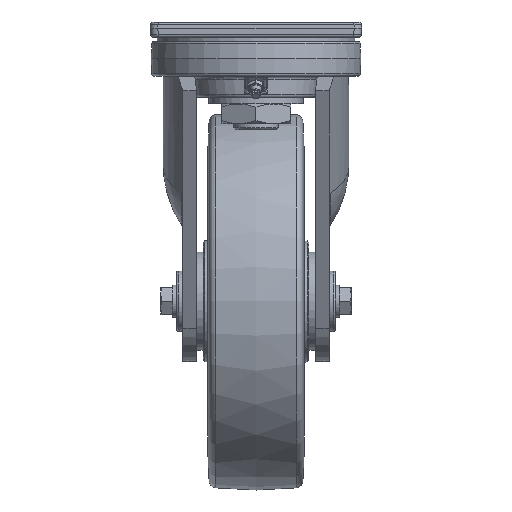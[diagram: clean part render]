
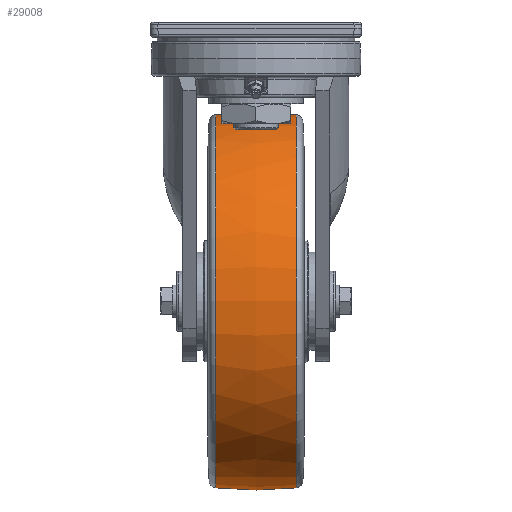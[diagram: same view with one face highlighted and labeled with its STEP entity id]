
A CAD part, left-side view. The second image highlights one B-rep face of the part: STEP entity #29008.
In plain terms, the highlighted free-form (B-spline) face has degree [2, 2] with [3, 9] control points.
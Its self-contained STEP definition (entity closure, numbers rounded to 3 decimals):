
#19=(
BOUNDED_SURFACE()
B_SPLINE_SURFACE(2,2,((#56457,#56458,#56459,#56460,#56461,#56462,#56463,
#56464,#56465),(#56466,#56467,#56468,#56469,#56470,#56471,#56472,#56473,
#56474),(#56475,#56476,#56477,#56478,#56479,#56480,#56481,#56482,#56483)),
 .UNSPECIFIED.,.F.,.T.,.F.)
B_SPLINE_SURFACE_WITH_KNOTS((3,3),(3,2,2,2,3),(-0.107,0.107),
(-3.142,-1.571,0.,1.571,3.142),
 .UNSPECIFIED.)
GEOMETRIC_REPRESENTATION_ITEM()
RATIONAL_B_SPLINE_SURFACE(((1.,0.707,1.,0.707,1.,
0.707,1.,0.707,1.),(0.994,0.703,
0.994,0.703,0.994,0.703,
0.994,0.703,0.994),(1.,0.707,
1.,0.707,1.,0.707,1.,0.707,1.)))
REPRESENTATION_ITEM('')
SURFACE()
);
#3186=CIRCLE('',#31191,123.579);
#3187=CIRCLE('',#31192,123.579);
#3188=CIRCLE('',#31193,250.);
#3189=CIRCLE('',#31194,123.579);
#3190=CIRCLE('',#31195,123.579);
#4847=FACE_OUTER_BOUND('',#6617,.T.);
#6617=EDGE_LOOP('',(#23900,#23901,#23902,#23903,#23904,#23905));
#12857=VERTEX_POINT('',#56452);
#12858=VERTEX_POINT('',#56454);
#12859=VERTEX_POINT('',#56484);
#12860=VERTEX_POINT('',#56486);
#16720=EDGE_CURVE('',#12857,#12858,#3186,.T.);
#16721=EDGE_CURVE('',#12858,#12857,#3187,.T.);
#16722=EDGE_CURVE('',#12857,#12859,#3188,.T.);
#16723=EDGE_CURVE('',#12859,#12860,#3189,.T.);
#16724=EDGE_CURVE('',#12860,#12859,#3190,.T.);
#23900=ORIENTED_EDGE('',*,*,#16721,.F.);
#23901=ORIENTED_EDGE('',*,*,#16720,.F.);
#23902=ORIENTED_EDGE('',*,*,#16722,.T.);
#23903=ORIENTED_EDGE('',*,*,#16723,.T.);
#23904=ORIENTED_EDGE('',*,*,#16724,.T.);
#23905=ORIENTED_EDGE('',*,*,#16722,.F.);
#29008=ADVANCED_FACE('',(#4847),#19,.F.);
#31191=AXIS2_PLACEMENT_3D('',#56455,#35909,#35910);
#31192=AXIS2_PLACEMENT_3D('',#56456,#35911,#35912);
#31193=AXIS2_PLACEMENT_3D('',#56485,#35913,#35914);
#31194=AXIS2_PLACEMENT_3D('',#56487,#35915,#35916);
#31195=AXIS2_PLACEMENT_3D('',#56488,#35917,#35918);
#35909=DIRECTION('center_axis',(0.,1.,0.));
#35910=DIRECTION('ref_axis',(-1.,0.,0.));
#35911=DIRECTION('center_axis',(0.,1.,0.));
#35912=DIRECTION('ref_axis',(-1.,0.,0.));
#35913=DIRECTION('center_axis',(1.,0.,0.));
#35914=DIRECTION('ref_axis',(0.,0.,1.));
#35915=DIRECTION('center_axis',(0.,1.,0.));
#35916=DIRECTION('ref_axis',(-1.,0.,0.));
#35917=DIRECTION('center_axis',(0.,1.,0.));
#35918=DIRECTION('ref_axis',(-1.,0.,0.));
#56452=CARTESIAN_POINT('',(75.,26.62,-57.421));
#56454=CARTESIAN_POINT('',(198.579,26.62,-181.));
#56455=CARTESIAN_POINT('Origin',(75.,26.62,-181.));
#56456=CARTESIAN_POINT('Origin',(75.,26.62,-181.));
#56457=CARTESIAN_POINT('Ctrl Pts',(75.,-26.62,-57.421));
#56458=CARTESIAN_POINT('Ctrl Pts',(198.579,-26.62,-57.421));
#56459=CARTESIAN_POINT('Ctrl Pts',(198.579,-26.62,-181.));
#56460=CARTESIAN_POINT('Ctrl Pts',(198.579,-26.62,-304.579));
#56461=CARTESIAN_POINT('Ctrl Pts',(75.,-26.62,-304.579));
#56462=CARTESIAN_POINT('Ctrl Pts',(-48.579,-26.62,-304.579));
#56463=CARTESIAN_POINT('Ctrl Pts',(-48.579,-26.62,-181.));
#56464=CARTESIAN_POINT('Ctrl Pts',(-48.579,-26.62,-57.421));
#56465=CARTESIAN_POINT('Ctrl Pts',(75.,-26.62,-57.421));
#56466=CARTESIAN_POINT('Ctrl Pts',(75.,0.,
-54.571));
#56467=CARTESIAN_POINT('Ctrl Pts',(201.429,0.,
-54.571));
#56468=CARTESIAN_POINT('Ctrl Pts',(201.429,0.,
-181.));
#56469=CARTESIAN_POINT('Ctrl Pts',(201.429,0.,
-307.429));
#56470=CARTESIAN_POINT('Ctrl Pts',(75.,0.,
-307.429));
#56471=CARTESIAN_POINT('Ctrl Pts',(-51.429,0.,
-307.429));
#56472=CARTESIAN_POINT('Ctrl Pts',(-51.429,0.,
-181.));
#56473=CARTESIAN_POINT('Ctrl Pts',(-51.429,0.,
-54.571));
#56474=CARTESIAN_POINT('Ctrl Pts',(75.,0.,
-54.571));
#56475=CARTESIAN_POINT('Ctrl Pts',(75.,26.62,-57.421));
#56476=CARTESIAN_POINT('Ctrl Pts',(198.579,26.62,-57.421));
#56477=CARTESIAN_POINT('Ctrl Pts',(198.579,26.62,-181.));
#56478=CARTESIAN_POINT('Ctrl Pts',(198.579,26.62,-304.579));
#56479=CARTESIAN_POINT('Ctrl Pts',(75.,26.62,-304.579));
#56480=CARTESIAN_POINT('Ctrl Pts',(-48.579,26.62,-304.579));
#56481=CARTESIAN_POINT('Ctrl Pts',(-48.579,26.62,-181.));
#56482=CARTESIAN_POINT('Ctrl Pts',(-48.579,26.62,-57.421));
#56483=CARTESIAN_POINT('Ctrl Pts',(75.,26.62,-57.421));
#56484=CARTESIAN_POINT('',(75.,-26.62,-57.421));
#56485=CARTESIAN_POINT('Origin',(75.,0.,-306.));
#56486=CARTESIAN_POINT('',(198.579,-26.62,-181.));
#56487=CARTESIAN_POINT('Origin',(75.,-26.62,-181.));
#56488=CARTESIAN_POINT('Origin',(75.,-26.62,-181.));
